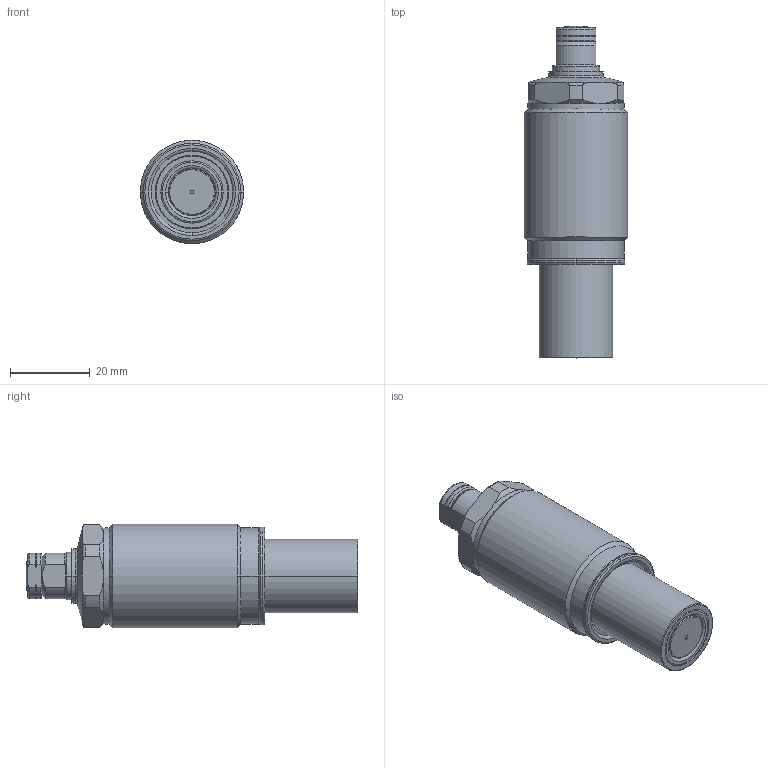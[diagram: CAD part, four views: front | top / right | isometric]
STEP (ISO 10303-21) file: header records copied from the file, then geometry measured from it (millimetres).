
FILE_DESCRIPTION(/* description */ (''),/* implementation_level */ '2;1');
FILE_NAME(/* name */ 'GSC00-Q.stp',/* time_stamp */ '2025-01-05T12:50:18+08:00',/* author */ (''),/* organization */ (''),/* preprocessor_version */ 'ST-DEVELOPER v16.7',/* originating_system */ 'SIEMENS PLM Software NX 12.0',/* authorisation */ '');
FILE_SCHEMA (('AUTOMOTIVE_DESIGN { 1 0 10303 214 3 1 1 1 }'));
Length unit declared in the file: millimetre
Products named in the file (7): GSC00-Q-06; GSC00-Q-05; GSC00-Q-04; GSC00-Q-03; GSC00-Q-02; GSC00-Q-01; TNC0403-Q_step
Assembly tree (6 placements, depth 2):
  TNC0403-Q_step
    GSC00-Q-01
    GSC00-Q-02
    GSC00-Q-03
    GSC00-Q-04
    GSC00-Q-05
    GSC00-Q-06
Bounding box: 26 x 83.5 x 26 mm (x, y, z)
Volume: 31150.1 mm3; surface area: 9332.1 mm2
Topology: 6 solids, 6 shells, 167 faces, 373 edges, 226 vertices
Faces by surface type: cylinder 50, torus 48, plane 37, cone 30, sphere 2
Full cylindrical faces by diameter (mm): 24.2 x1, 26 x1
Entity records: 5198 total; most frequent: CARTESIAN_POINT 1215, DIRECTION 890, ORIENTED_EDGE 748, AXIS2_PLACEMENT_3D 398, EDGE_CURVE 374, VERTEX_POINT 229, CIRCLE 218, EDGE_LOOP 185
